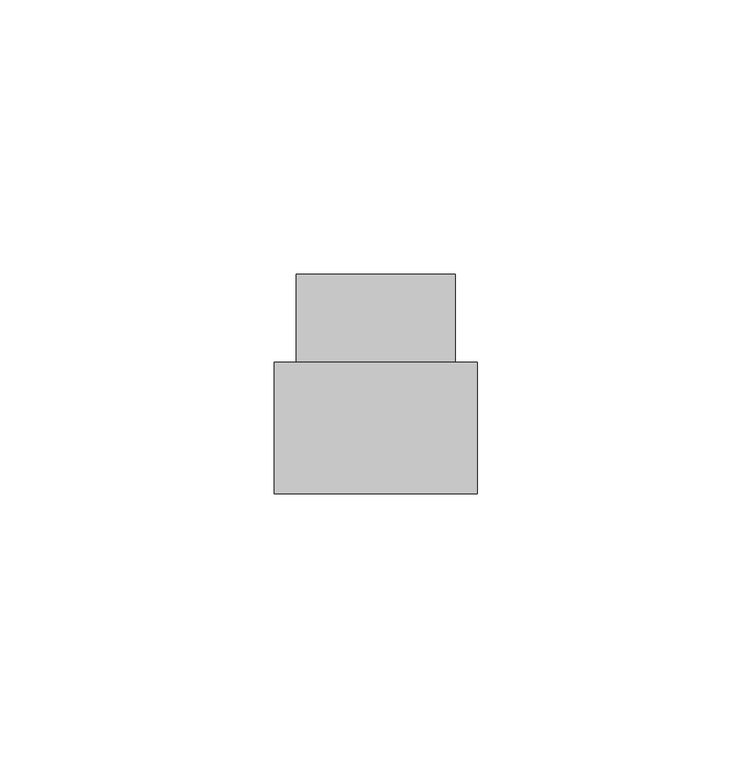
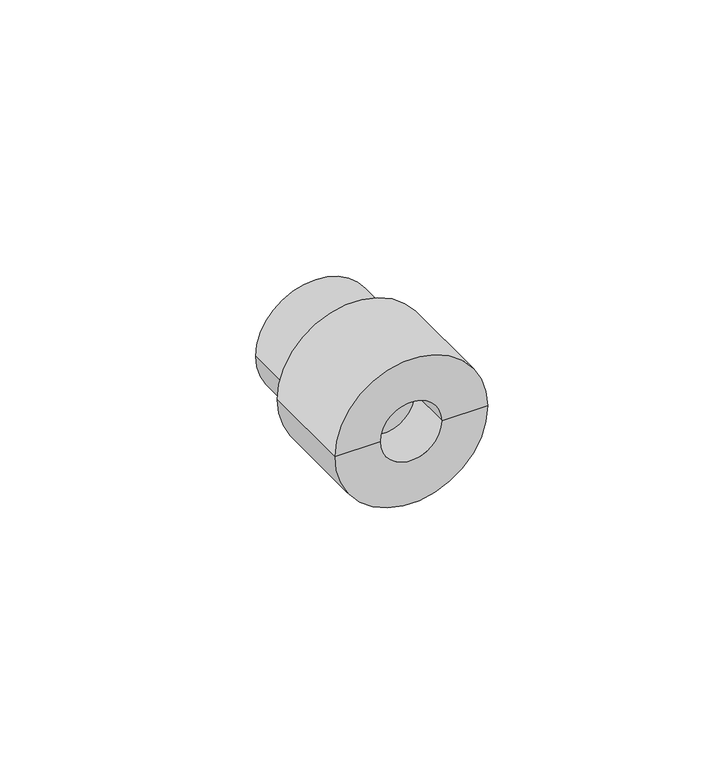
"""IFC4 building model written with IfcOpenShell, lengths in millimetres: pipe fitting geometry, NIRON RED termofusion roscado enlace rosca hembra : Estándar."""

from ifc_helpers import new_model, si_unit, frame, origin, place, context, project, spatial, polyline, circle_curve, source, transform, mapped, element, save
from ifc_brep_helpers import plane_surface, cylinder_surface, revolved_surface, advanced_brep


def pipe_fitting_7709cbc0(model_context):
    return source(origin(), model_context, "Body", "AdvancedBrep", [
        advanced_brep(
        [(14.5, 40.0, 0.0), (-14.5, 40.0, 0.0), (0.0, 40.0, 0.0), (18.5, 0.0, 0.0), (-18.5, 0.0, 0.0), (-18.5, 24.0, 0.0), (18.5, 24.0, 0.0), (7.5, 0.0, 0.0), (-7.5, 0.0, 0.0), (14.5, 24.0, 0.0), (-14.5, 24.0, 0.0), (-7.5, 11.5, 0.0), (7.5, 11.5, 0.0)],
        [
            (0, 1, circle_curve(frame((0.0, 40.0, 0.0), z_axis=(0.0, 1.0, 0.0), x_axis=(-1.0, 0.0, 0.0)), 14.5)),
            (1, 2),
            (2, 0),
            (1, 0, circle_curve(frame((0.0, 40.0, 0.0), z_axis=(0.0, 1.0, 0.0), x_axis=(-1.0, 0.0, 0.0)), 14.5)),
            (3, 4, circle_curve(frame((0.0, 0.0, 0.0), z_axis=(0.0, 1.0, 0.0), x_axis=(-1.0, 0.0, 0.0)), 18.5)),
            (4, 5),
            (5, 6, circle_curve(frame((0.0, 24.0, 0.0), z_axis=(0.0, -1.0, 0.0), x_axis=(-1.0, 0.0, 0.0)), 18.5)),
            (6, 3),
            (4, 3, circle_curve(frame((0.0, 0.0, 0.0), z_axis=(0.0, 1.0, 0.0), x_axis=(-1.0, 0.0, 0.0)), 18.5)),
            (6, 5, circle_curve(frame((0.0, 24.0, 0.0), z_axis=(0.0, -1.0, 0.0), x_axis=(-1.0, 0.0, 0.0)), 18.5)),
            (3, 7),
            (7, 8, circle_curve(frame((0.0, 0.0, 0.0), z_axis=(0.0, 1.0, 0.0), x_axis=(1.0, 0.0, 0.0)), 7.5)),
            (8, 4),
            (8, 7, circle_curve(frame((0.0, 0.0, 0.0), z_axis=(0.0, 1.0, 0.0), x_axis=(1.0, 0.0, 0.0)), 7.5)),
            (0, 9),
            (9, 10, circle_curve(frame((0.0, 24.0, 0.0), z_axis=(0.0, 1.0, 0.0), x_axis=(-1.0, 0.0, 0.0)), 14.5)),
            (10, 1),
            (10, 9, circle_curve(frame((0.0, 24.0, 0.0), z_axis=(0.0, 1.0, 0.0), x_axis=(-1.0, 0.0, 0.0)), 14.5)),
            (5, 10),
            (9, 6),
            (11, 12, circle_curve(frame((0.0, 11.5, 0.0), z_axis=(0.0, -1.0, 0.0), x_axis=(1.0, 0.0, 0.0)), 7.5)),
            (12, 11, circle_curve(frame((0.0, 11.5, 0.0), z_axis=(0.0, -1.0, 0.0), x_axis=(1.0, 0.0, 0.0)), 7.5)),
            (11, 8),
            (7, 12),
        ],
        [
            plane_surface(frame((0.0, 40.0, 0.0), z_axis=(0.0, 1.0, 0.0), x_axis=(-1.0, 0.0, 0.0))),
            cylinder_surface(frame((0.0, 50.0, 0.0), z_axis=(0.0, -1.0, 0.0), x_axis=(-1.0, 0.0, 0.0)), 18.5),
            plane_surface(frame((0.0, 0.0, 0.0), z_axis=(0.0, -1.0, 0.0), x_axis=(-1.0, 0.0, 0.0))),
            cylinder_surface(frame((0.0, 50.0, 0.0), z_axis=(0.0, -1.0, 0.0), x_axis=(-1.0, 0.0, 0.0)), 14.5),
            plane_surface(frame((0.0, 24.0, 0.0), z_axis=(0.0, 1.0, 0.0), x_axis=(-1.0, 0.0, 0.0))),
            plane_surface(frame((7.5, 11.5, 0.0), z_axis=(0.0, -1.0, 0.0), x_axis=(0.0, 0.0, -1.0))),
            revolved_surface(polyline([(7.5, 0.0, 0.0), (7.5, 11.5, 0.0)]), (0.0, 11.5, 0.0), (0.0, -1.0, 0.0)),
        ],
        [
            (0, [[1, 2, 3]]),
            (0, [[-2, 4, -3]]),
            (1, [[5, 6, 7, 8]]),
            (1, [[-6, 9, -8, 10]]),
            (2, [[-5, 11, 12, 13]]),
            (2, [[-9, -13, 14, -11]]),
            (3, [[-1, 15, 16, 17]]),
            (3, [[-4, -17, 18, -15]]),
            (4, [[-7, 19, -16, 20]]),
            (4, [[-10, -20, -18, -19]]),
            (5, [[21, 22]]),
            (6, [[-21, 23, -12, 24]]),
            (6, [[-22, -24, -14, -23]]),
        ],
    ),
    ])


if __name__ == "__main__":
    model = new_model("IFC4")
    model_context = context("Model", 3, world=origin())
    ifc_project = project(units=[si_unit("LENGTHUNIT", "METRE", prefix="MILLI")], contexts=[model_context])
    site = spatial("IfcSite", under=ifc_project)
    building = spatial("IfcBuilding", under=site)
    placement = place(None, origin())
    pipe_fitting_shape = pipe_fitting_7709cbc0(model_context)
    element("IfcPipeFitting", 1, ObjectType="NIRON RED termofusion roscado enlace rosca hembra : Estándar", at=placement, inside=building, context=model_context, shape_type="MappedRepresentation", body=[
        mapped(pipe_fitting_shape, transform((0.0, 0.0, 0.0), x_axis=(1.0, 0.0, 0.0), y_axis=(0.0, 1.0, 0.0), z_axis=(0.0, 0.0, 1.0))),
    ])
    save(model, "model.ifc")
